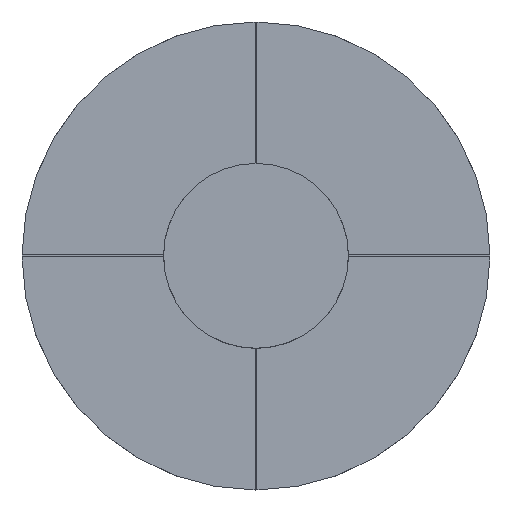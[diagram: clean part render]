
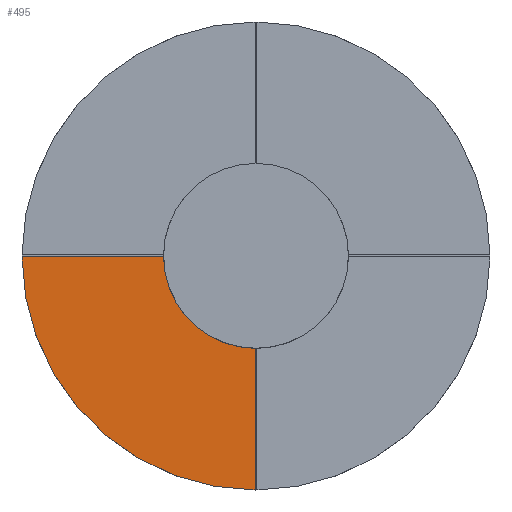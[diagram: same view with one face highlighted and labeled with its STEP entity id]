
A CAD part, top view. The second image highlights one B-rep face of the part: STEP entity #495.
In plain terms, the highlighted planar face has unit normal (0, 0, 1).
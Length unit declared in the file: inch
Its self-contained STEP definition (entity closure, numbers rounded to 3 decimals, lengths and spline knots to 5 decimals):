
#80=CARTESIAN_POINT('',(0.,0.,0.01));
#81=DIRECTION('',(0.,0.,1.));
#82=DIRECTION('',(-1.,-0.011,0.));
#83=AXIS2_PLACEMENT_3D('',#80,#81,#82);
#85=DIRECTION('',(0.,-1.,0.));
#86=VECTOR('',#85,0.072);
#87=CARTESIAN_POINT('',(-0.0005,-0.047,0.01));
#88=LINE('',#87,#86);
#89=CARTESIAN_POINT('',(0.,0.,0.01));
#90=DIRECTION('',(0.,0.,1.));
#91=DIRECTION('',(-1.,-0.004,0.));
#92=AXIS2_PLACEMENT_3D('',#89,#90,#91);
#94=DIRECTION('',(1.,0.,0.));
#95=VECTOR('',#94,0.072);
#96=CARTESIAN_POINT('',(-0.119,-0.0005,0.01));
#97=LINE('',#96,#95);
#213=CARTESIAN_POINT('',(-0.119,-0.0005,0.01));
#215=CARTESIAN_POINT('',(-0.0005,-0.119,0.01));
#307=VERTEX_POINT('',#213);
#308=VERTEX_POINT('',#215);
#327=CARTESIAN_POINT('',(-0.047,-0.0005,0.01));
#328=CARTESIAN_POINT('',(-0.0005,-0.047,0.01));
#329=VERTEX_POINT('',#327);
#330=VERTEX_POINT('',#328);
#480=CARTESIAN_POINT('',(0.,0.,0.01));
#481=DIRECTION('',(0.,0.,1.));
#482=DIRECTION('',(1.,0.,0.));
#483=AXIS2_PLACEMENT_3D('',#480,#481,#482);
#484=PLANE('',#483);
#486=ORIENTED_EDGE('',*,*,#485,.T.);
#488=ORIENTED_EDGE('',*,*,#487,.T.);
#490=ORIENTED_EDGE('',*,*,#489,.F.);
#492=ORIENTED_EDGE('',*,*,#491,.T.);
#493=EDGE_LOOP('',(#486,#488,#490,#492));
#494=FACE_OUTER_BOUND('',#493,.F.);
#495=ADVANCED_FACE('',(#494),#484,.T.);
#84=CIRCLE('',#83,0.047);
#93=CIRCLE('',#92,0.119);
#485=EDGE_CURVE('',#329,#330,#84,.T.);
#487=EDGE_CURVE('',#330,#308,#88,.T.);
#489=EDGE_CURVE('',#307,#308,#93,.T.);
#491=EDGE_CURVE('',#307,#329,#97,.T.);
